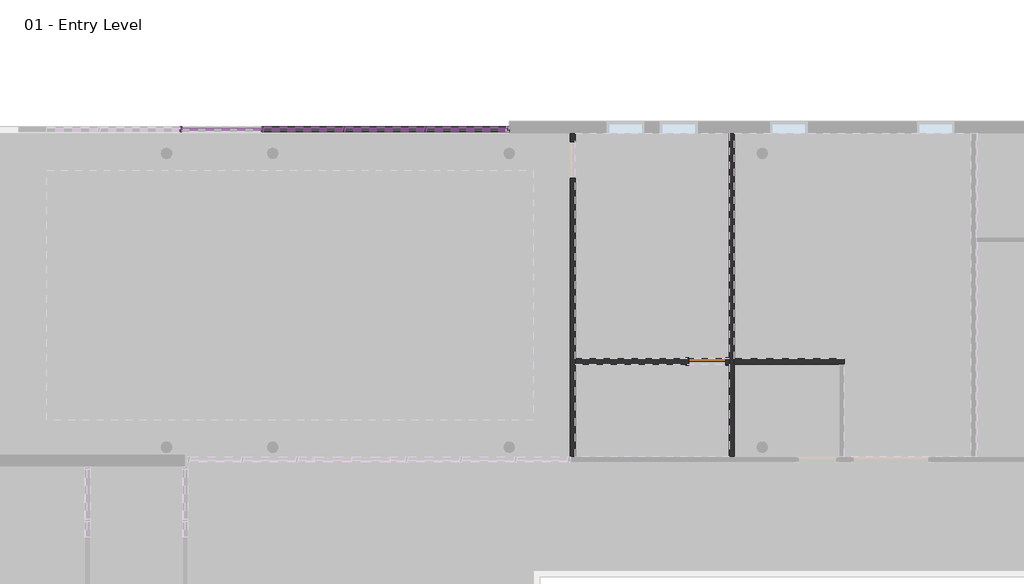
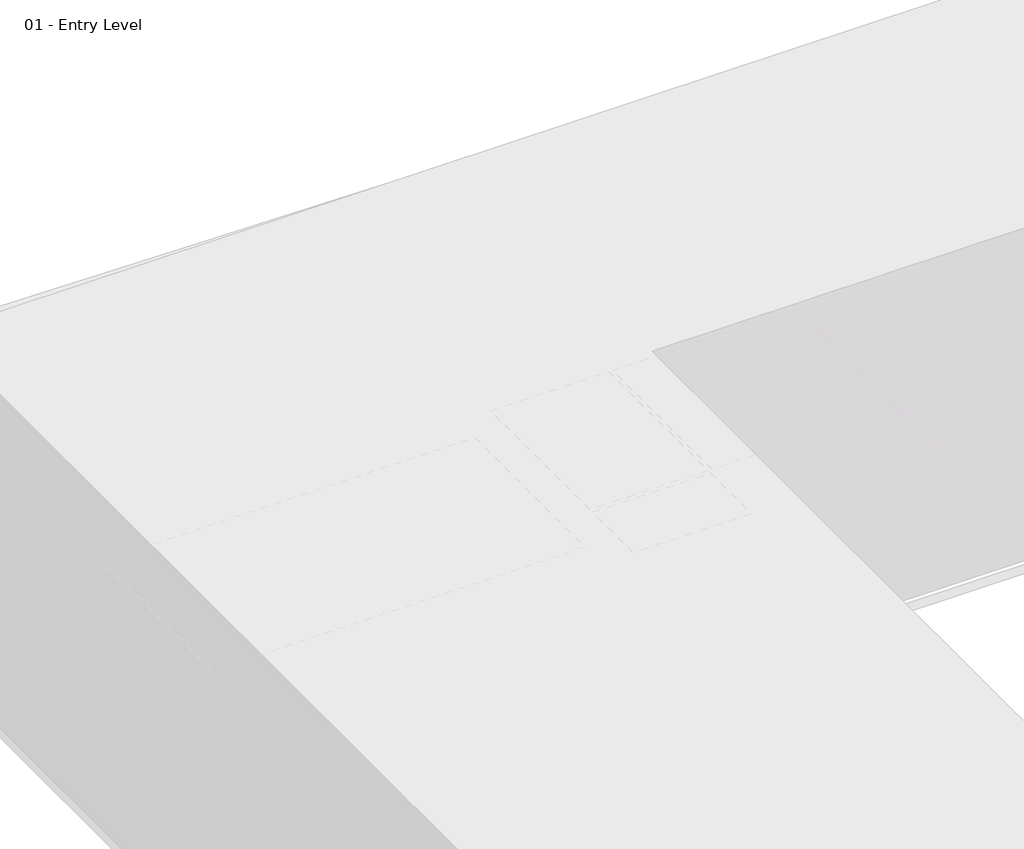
# One storey, part 29 of 34: 82 members, 36 plates, 3 walls, 1 door.
"""IFC4 building model written with IfcOpenShell, lengths in millimetres."""

from ifc_helpers import new_model, si_unit, origin, place, context, project, spatial, faceted_brep, transform, mapped, element, save
from components import door_a1797ceb, member_2b49869a, member_75074519, member_391b434c, member_9e90ae50, system_panel_glazed_1b9d6098, system_panel_glazed_70da479d, system_panel_solid_b376696c, system_panel_solid_77e8b053

model = new_model("IFC4")

# Units and contexts
model_context = context("Model", 3, world=origin())
ifc_project = project(units=[si_unit("LENGTHUNIT", "METRE", prefix="MILLI")], contexts=[model_context])

# Site, building, storey
site = spatial("IfcSite", under=ifc_project)
building = spatial("IfcBuilding", under=site)
storey = spatial("IfcBuildingStorey", under=building, Name="01 - Entry Level", Elevation=0.0)

# Door
placement = place(None, origin())
door_shape = door_a1797ceb(model_context)
element("IfcDoor", 1, ObjectType="Single-Flush : 36\" x 84\"", at=placement, inside=storey, context=model_context, shape_type="MappedRepresentation", body=[
    mapped(door_shape, transform((21413.1207476, 48047.2, 0.0), x_axis=(1.0, 0.0, 0.0), y_axis=(0.0, 1.0, 0.0), z_axis=(0.0, 0.0, 1.0))),
])

# Members
member_shape = member_2b49869a(model_context)
element("IfcMember", 2, ObjectType="Rectangular Mullion : 2.5\" x 5\" rectangular", at=placement, inside=storey, context=model_context, shape_type="MappedRepresentation", body=[
    mapped(member_shape, transform((14402.7207476, 53825.7, 9753.6), x_axis=(-1.0, 0.0, 0.0), y_axis=(0.0, 1.0, 0.0), z_axis=(0.0, 0.0, -1.0))),
])
element("IfcMember", 3, ObjectType="Rectangular Mullion : 2.5\" x 5\" rectangular", at=placement, inside=storey, context=model_context, shape_type="MappedRepresentation", body=[
    mapped(member_shape, transform((12370.7207476, 53825.7, 9753.6), x_axis=(-1.0, 0.0, 0.0), y_axis=(0.0, 1.0, 0.0), z_axis=(0.0, 0.0, -1.0))),
])
element("IfcMember", 4, ObjectType="Rectangular Mullion : 2.5\" x 5\" rectangular", at=placement, inside=storey, context=model_context, shape_type="MappedRepresentation", body=[
    mapped(member_shape, transform((10338.7207476, 53825.7, 9753.6), x_axis=(-1.0, 0.0, 0.0), y_axis=(0.0, 1.0, 0.0), z_axis=(0.0, 0.0, -1.0))),
])
element("IfcMember", 5, ObjectType="Rectangular Mullion : 2.5\" x 5\" rectangular", at=placement, inside=storey, context=model_context, shape_type="MappedRepresentation", body=[
    mapped(member_shape, transform((8306.7207476, 53825.7, 9753.6), x_axis=(-1.0, 0.0, 0.0), y_axis=(0.0, 1.0, 0.0), z_axis=(0.0, 0.0, -1.0))),
])
member_2_shape = member_75074519(model_context)
element("IfcMember", 6, ObjectType="Rectangular Mullion : 2.5\" x 5\" rectangular", at=placement, inside=storey, context=model_context, shape_type="MappedRepresentation", body=[
    mapped(member_2_shape, transform((16485.5207476, 53825.7, 10972.8), x_axis=(1.0, 0.0, 0.0), y_axis=(0.0, 1.0, 0.0), z_axis=(0.0, 0.0, 1.0))),
])
member_3_shape = member_391b434c(model_context)
element("IfcMember", 7, ObjectType="Rectangular Mullion : 2.5\" x 5\" rectangular", at=placement, inside=storey, context=model_context, shape_type="MappedRepresentation", body=[
    mapped(member_3_shape, transform((14434.4707476, 53825.7, 10972.8), x_axis=(0.0, 0.0, 1.0), y_axis=(0.0, 1.0, 0.0), z_axis=(-1.0, 0.0, 0.0))),
])
element("IfcMember", 8, ObjectType="Rectangular Mullion : 2.5\" x 5\" rectangular", at=placement, inside=storey, context=model_context, shape_type="MappedRepresentation", body=[
    mapped(member_3_shape, transform((12402.4707476, 53825.7, 10972.8), x_axis=(0.0, 0.0, 1.0), y_axis=(0.0, 1.0, 0.0), z_axis=(-1.0, 0.0, 0.0))),
])
element("IfcMember", 9, ObjectType="Rectangular Mullion : 2.5\" x 5\" rectangular", at=placement, inside=storey, context=model_context, shape_type="MappedRepresentation", body=[
    mapped(member_3_shape, transform((10370.4707476, 53825.7, 10972.8), x_axis=(0.0, 0.0, 1.0), y_axis=(0.0, 1.0, 0.0), z_axis=(-1.0, 0.0, 0.0))),
])
element("IfcMember", 10, ObjectType="Rectangular Mullion : 2.5\" x 5\" rectangular", at=placement, inside=storey, context=model_context, shape_type="MappedRepresentation", body=[
    mapped(member_3_shape, transform((16402.9707476, 53825.7, 0.0), x_axis=(0.0, 0.0, -1.0), y_axis=(0.0, 1.0, 0.0), z_axis=(1.0, 0.0, 0.0))),
])
element("IfcMember", 11, ObjectType="Rectangular Mullion : 2.5\" x 5\" rectangular", at=placement, inside=storey, context=model_context, shape_type="MappedRepresentation", body=[
    mapped(member_3_shape, transform((14370.9707476, 53825.7, 0.0), x_axis=(0.0, 0.0, -1.0), y_axis=(0.0, 1.0, 0.0), z_axis=(1.0, 0.0, 0.0))),
])
element("IfcMember", 12, ObjectType="Rectangular Mullion : 2.5\" x 5\" rectangular", at=placement, inside=storey, context=model_context, shape_type="MappedRepresentation", body=[
    mapped(member_3_shape, transform((12338.9707476, 53825.7, 0.0), x_axis=(0.0, 0.0, -1.0), y_axis=(0.0, 1.0, 0.0), z_axis=(1.0, 0.0, 0.0))),
])
element("IfcMember", 13, ObjectType="Rectangular Mullion : 2.5\" x 5\" rectangular", at=placement, inside=storey, context=model_context, shape_type="MappedRepresentation", body=[
    mapped(member_3_shape, transform((10306.9707476, 53825.7, 0.0), x_axis=(0.0, 0.0, -1.0), y_axis=(0.0, 1.0, 0.0), z_axis=(1.0, 0.0, 0.0))),
])
member_4_shape = member_9e90ae50(model_context)
element("IfcMember", 14, ObjectType="Rectangular Mullion : 2.5\" x 5\" rectangular", at=placement, inside=storey, context=model_context, shape_type="MappedRepresentation", body=[
    mapped(member_4_shape, transform((14434.4707476, 53825.7, 1219.2), x_axis=(0.0, 0.0, 1.0), y_axis=(0.0, 1.0, 0.0), z_axis=(-1.0, 0.0, 0.0))),
])
element("IfcMember", 15, ObjectType="Rectangular Mullion : 2.5\" x 5\" rectangular", at=placement, inside=storey, context=model_context, shape_type="MappedRepresentation", body=[
    mapped(member_4_shape, transform((12402.4707476, 53825.7, 1219.2), x_axis=(0.0, 0.0, 1.0), y_axis=(0.0, 1.0, 0.0), z_axis=(-1.0, 0.0, 0.0))),
])
element("IfcMember", 16, ObjectType="Rectangular Mullion : 2.5\" x 5\" rectangular", at=placement, inside=storey, context=model_context, shape_type="MappedRepresentation", body=[
    mapped(member_4_shape, transform((10370.4707476, 53825.7, 1219.2), x_axis=(0.0, 0.0, 1.0), y_axis=(0.0, 1.0, 0.0), z_axis=(-1.0, 0.0, 0.0))),
])
element("IfcMember", 17, ObjectType="Rectangular Mullion : 2.5\" x 5\" rectangular", at=placement, inside=storey, context=model_context, shape_type="MappedRepresentation", body=[
    mapped(member_4_shape, transform((14434.4707476, 53825.7, 2438.4), x_axis=(0.0, 0.0, 1.0), y_axis=(0.0, 1.0, 0.0), z_axis=(-1.0, 0.0, 0.0))),
])
element("IfcMember", 18, ObjectType="Rectangular Mullion : 2.5\" x 5\" rectangular", at=placement, inside=storey, context=model_context, shape_type="MappedRepresentation", body=[
    mapped(member_4_shape, transform((12402.4707476, 53825.7, 2438.4), x_axis=(0.0, 0.0, 1.0), y_axis=(0.0, 1.0, 0.0), z_axis=(-1.0, 0.0, 0.0))),
])
element("IfcMember", 19, ObjectType="Rectangular Mullion : 2.5\" x 5\" rectangular", at=placement, inside=storey, context=model_context, shape_type="MappedRepresentation", body=[
    mapped(member_4_shape, transform((10370.4707476, 53825.7, 2438.4), x_axis=(0.0, 0.0, 1.0), y_axis=(0.0, 1.0, 0.0), z_axis=(-1.0, 0.0, 0.0))),
])
element("IfcMember", 20, ObjectType="Rectangular Mullion : 2.5\" x 5\" rectangular", at=placement, inside=storey, context=model_context, shape_type="MappedRepresentation", body=[
    mapped(member_4_shape, transform((14434.4707476, 53825.7, 3657.6), x_axis=(0.0, 0.0, 1.0), y_axis=(0.0, 1.0, 0.0), z_axis=(-1.0, 0.0, 0.0))),
])
element("IfcMember", 21, ObjectType="Rectangular Mullion : 2.5\" x 5\" rectangular", at=placement, inside=storey, context=model_context, shape_type="MappedRepresentation", body=[
    mapped(member_4_shape, transform((12402.4707476, 53825.7, 3657.6), x_axis=(0.0, 0.0, 1.0), y_axis=(0.0, 1.0, 0.0), z_axis=(-1.0, 0.0, 0.0))),
])
element("IfcMember", 22, ObjectType="Rectangular Mullion : 2.5\" x 5\" rectangular", at=placement, inside=storey, context=model_context, shape_type="MappedRepresentation", body=[
    mapped(member_4_shape, transform((10370.4707476, 53825.7, 3657.6), x_axis=(0.0, 0.0, 1.0), y_axis=(0.0, 1.0, 0.0), z_axis=(-1.0, 0.0, 0.0))),
])
element("IfcMember", 23, ObjectType="Rectangular Mullion : 2.5\" x 5\" rectangular", at=placement, inside=storey, context=model_context, shape_type="MappedRepresentation", body=[
    mapped(member_4_shape, transform((14434.4707476, 53825.7, 4876.8), x_axis=(0.0, 0.0, 1.0), y_axis=(0.0, 1.0, 0.0), z_axis=(-1.0, 0.0, 0.0))),
])
element("IfcMember", 24, ObjectType="Rectangular Mullion : 2.5\" x 5\" rectangular", at=placement, inside=storey, context=model_context, shape_type="MappedRepresentation", body=[
    mapped(member_4_shape, transform((12402.4707476, 53825.7, 4876.8), x_axis=(0.0, 0.0, 1.0), y_axis=(0.0, 1.0, 0.0), z_axis=(-1.0, 0.0, 0.0))),
])
element("IfcMember", 25, ObjectType="Rectangular Mullion : 2.5\" x 5\" rectangular", at=placement, inside=storey, context=model_context, shape_type="MappedRepresentation", body=[
    mapped(member_4_shape, transform((10370.4707476, 53825.7, 4876.8), x_axis=(0.0, 0.0, 1.0), y_axis=(0.0, 1.0, 0.0), z_axis=(-1.0, 0.0, 0.0))),
])
element("IfcMember", 26, ObjectType="Rectangular Mullion : 2.5\" x 5\" rectangular", at=placement, inside=storey, context=model_context, shape_type="MappedRepresentation", body=[
    mapped(member_4_shape, transform((14434.4707476, 53825.7, 6096.0), x_axis=(0.0, 0.0, 1.0), y_axis=(0.0, 1.0, 0.0), z_axis=(-1.0, 0.0, 0.0))),
])
element("IfcMember", 27, ObjectType="Rectangular Mullion : 2.5\" x 5\" rectangular", at=placement, inside=storey, context=model_context, shape_type="MappedRepresentation", body=[
    mapped(member_4_shape, transform((12402.4707476, 53825.7, 6096.0), x_axis=(0.0, 0.0, 1.0), y_axis=(0.0, 1.0, 0.0), z_axis=(-1.0, 0.0, 0.0))),
])
element("IfcMember", 28, ObjectType="Rectangular Mullion : 2.5\" x 5\" rectangular", at=placement, inside=storey, context=model_context, shape_type="MappedRepresentation", body=[
    mapped(member_4_shape, transform((10370.4707476, 53825.7, 6096.0), x_axis=(0.0, 0.0, 1.0), y_axis=(0.0, 1.0, 0.0), z_axis=(-1.0, 0.0, 0.0))),
])
element("IfcMember", 29, ObjectType="Rectangular Mullion : 2.5\" x 5\" rectangular", at=placement, inside=storey, context=model_context, shape_type="MappedRepresentation", body=[
    mapped(member_4_shape, transform((14434.4707476, 53825.7, 7315.2), x_axis=(0.0, 0.0, 1.0), y_axis=(0.0, 1.0, 0.0), z_axis=(-1.0, 0.0, 0.0))),
])
element("IfcMember", 30, ObjectType="Rectangular Mullion : 2.5\" x 5\" rectangular", at=placement, inside=storey, context=model_context, shape_type="MappedRepresentation", body=[
    mapped(member_4_shape, transform((12402.4707476, 53825.7, 7315.2), x_axis=(0.0, 0.0, 1.0), y_axis=(0.0, 1.0, 0.0), z_axis=(-1.0, 0.0, 0.0))),
])
element("IfcMember", 31, ObjectType="Rectangular Mullion : 2.5\" x 5\" rectangular", at=placement, inside=storey, context=model_context, shape_type="MappedRepresentation", body=[
    mapped(member_4_shape, transform((10370.4707476, 53825.7, 7315.2), x_axis=(0.0, 0.0, 1.0), y_axis=(0.0, 1.0, 0.0), z_axis=(-1.0, 0.0, 0.0))),
])
element("IfcMember", 32, ObjectType="Rectangular Mullion : 2.5\" x 5\" rectangular", at=placement, inside=storey, context=model_context, shape_type="MappedRepresentation", body=[
    mapped(member_4_shape, transform((14434.4707476, 53825.7, 8534.4), x_axis=(0.0, 0.0, 1.0), y_axis=(0.0, 1.0, 0.0), z_axis=(-1.0, 0.0, 0.0))),
])
element("IfcMember", 33, ObjectType="Rectangular Mullion : 2.5\" x 5\" rectangular", at=placement, inside=storey, context=model_context, shape_type="MappedRepresentation", body=[
    mapped(member_4_shape, transform((12402.4707476, 53825.7, 8534.4), x_axis=(0.0, 0.0, 1.0), y_axis=(0.0, 1.0, 0.0), z_axis=(-1.0, 0.0, 0.0))),
])
element("IfcMember", 34, ObjectType="Rectangular Mullion : 2.5\" x 5\" rectangular", at=placement, inside=storey, context=model_context, shape_type="MappedRepresentation", body=[
    mapped(member_4_shape, transform((10370.4707476, 53825.7, 8534.4), x_axis=(0.0, 0.0, 1.0), y_axis=(0.0, 1.0, 0.0), z_axis=(-1.0, 0.0, 0.0))),
])
element("IfcMember", 35, ObjectType="Rectangular Mullion : 2.5\" x 5\" rectangular", at=placement, inside=storey, context=model_context, shape_type="MappedRepresentation", body=[
    mapped(member_4_shape, transform((14434.4707476, 53825.7, 9753.6), x_axis=(0.0, 0.0, 1.0), y_axis=(0.0, 1.0, 0.0), z_axis=(-1.0, 0.0, 0.0))),
])
element("IfcMember", 36, ObjectType="Rectangular Mullion : 2.5\" x 5\" rectangular", at=placement, inside=storey, context=model_context, shape_type="MappedRepresentation", body=[
    mapped(member_4_shape, transform((12402.4707476, 53825.7, 9753.6), x_axis=(0.0, 0.0, 1.0), y_axis=(0.0, 1.0, 0.0), z_axis=(-1.0, 0.0, 0.0))),
])
element("IfcMember", 37, ObjectType="Rectangular Mullion : 2.5\" x 5\" rectangular", at=placement, inside=storey, context=model_context, shape_type="MappedRepresentation", body=[
    mapped(member_4_shape, transform((10370.4707476, 53825.7, 9753.6), x_axis=(0.0, 0.0, 1.0), y_axis=(0.0, 1.0, 0.0), z_axis=(-1.0, 0.0, 0.0))),
])
element("IfcMember", 38, ObjectType="Rectangular Mullion : 2.5\" x 5\" rectangular", at=placement, inside=storey, context=model_context, shape_type="MappedRepresentation", body=[
    mapped(member_shape, transform((16434.7207476, 53825.7, 0.0), x_axis=(-1.0, 0.0, 0.0), y_axis=(0.0, 1.0, 0.0), z_axis=(0.0, 0.0, -1.0))),
])
element("IfcMember", 39, ObjectType="Rectangular Mullion : 2.5\" x 5\" rectangular", at=placement, inside=storey, context=model_context, shape_type="MappedRepresentation", body=[
    mapped(member_shape, transform((14402.7207476, 53825.7, 0.0), x_axis=(-1.0, 0.0, 0.0), y_axis=(0.0, 1.0, 0.0), z_axis=(0.0, 0.0, -1.0))),
])
element("IfcMember", 40, ObjectType="Rectangular Mullion : 2.5\" x 5\" rectangular", at=placement, inside=storey, context=model_context, shape_type="MappedRepresentation", body=[
    mapped(member_shape, transform((12370.7207476, 53825.7, 0.0), x_axis=(-1.0, 0.0, 0.0), y_axis=(0.0, 1.0, 0.0), z_axis=(0.0, 0.0, -1.0))),
])
element("IfcMember", 41, ObjectType="Rectangular Mullion : 2.5\" x 5\" rectangular", at=placement, inside=storey, context=model_context, shape_type="MappedRepresentation", body=[
    mapped(member_shape, transform((10338.7207476, 53825.7, 0.0), x_axis=(-1.0, 0.0, 0.0), y_axis=(0.0, 1.0, 0.0), z_axis=(0.0, 0.0, -1.0))),
])
element("IfcMember", 42, ObjectType="Rectangular Mullion : 2.5\" x 5\" rectangular", at=placement, inside=storey, context=model_context, shape_type="MappedRepresentation", body=[
    mapped(member_shape, transform((8306.7207476, 53825.7, 0.0), x_axis=(-1.0, 0.0, 0.0), y_axis=(0.0, 1.0, 0.0), z_axis=(0.0, 0.0, -1.0))),
])
element("IfcMember", 43, ObjectType="Rectangular Mullion : 2.5\" x 5\" rectangular", at=placement, inside=storey, context=model_context, shape_type="MappedRepresentation", body=[
    mapped(member_shape, transform((16434.7207476, 53825.7, 1219.2), x_axis=(-1.0, 0.0, 0.0), y_axis=(0.0, 1.0, 0.0), z_axis=(0.0, 0.0, -1.0))),
])
element("IfcMember", 44, ObjectType="Rectangular Mullion : 2.5\" x 5\" rectangular", at=placement, inside=storey, context=model_context, shape_type="MappedRepresentation", body=[
    mapped(member_shape, transform((14402.7207476, 53825.7, 1219.2), x_axis=(-1.0, 0.0, 0.0), y_axis=(0.0, 1.0, 0.0), z_axis=(0.0, 0.0, -1.0))),
])
element("IfcMember", 45, ObjectType="Rectangular Mullion : 2.5\" x 5\" rectangular", at=placement, inside=storey, context=model_context, shape_type="MappedRepresentation", body=[
    mapped(member_shape, transform((12370.7207476, 53825.7, 1219.2), x_axis=(-1.0, 0.0, 0.0), y_axis=(0.0, 1.0, 0.0), z_axis=(0.0, 0.0, -1.0))),
])
element("IfcMember", 46, ObjectType="Rectangular Mullion : 2.5\" x 5\" rectangular", at=placement, inside=storey, context=model_context, shape_type="MappedRepresentation", body=[
    mapped(member_shape, transform((10338.7207476, 53825.7, 1219.2), x_axis=(-1.0, 0.0, 0.0), y_axis=(0.0, 1.0, 0.0), z_axis=(0.0, 0.0, -1.0))),
])
element("IfcMember", 47, ObjectType="Rectangular Mullion : 2.5\" x 5\" rectangular", at=placement, inside=storey, context=model_context, shape_type="MappedRepresentation", body=[
    mapped(member_shape, transform((8306.7207476, 53825.7, 1219.2), x_axis=(-1.0, 0.0, 0.0), y_axis=(0.0, 1.0, 0.0), z_axis=(0.0, 0.0, -1.0))),
])
element("IfcMember", 48, ObjectType="Rectangular Mullion : 2.5\" x 5\" rectangular", at=placement, inside=storey, context=model_context, shape_type="MappedRepresentation", body=[
    mapped(member_shape, transform((16434.7207476, 53825.7, 2438.4), x_axis=(-1.0, 0.0, 0.0), y_axis=(0.0, 1.0, 0.0), z_axis=(0.0, 0.0, -1.0))),
])
element("IfcMember", 49, ObjectType="Rectangular Mullion : 2.5\" x 5\" rectangular", at=placement, inside=storey, context=model_context, shape_type="MappedRepresentation", body=[
    mapped(member_shape, transform((14402.7207476, 53825.7, 2438.4), x_axis=(-1.0, 0.0, 0.0), y_axis=(0.0, 1.0, 0.0), z_axis=(0.0, 0.0, -1.0))),
])
element("IfcMember", 50, ObjectType="Rectangular Mullion : 2.5\" x 5\" rectangular", at=placement, inside=storey, context=model_context, shape_type="MappedRepresentation", body=[
    mapped(member_shape, transform((12370.7207476, 53825.7, 2438.4), x_axis=(-1.0, 0.0, 0.0), y_axis=(0.0, 1.0, 0.0), z_axis=(0.0, 0.0, -1.0))),
])
element("IfcMember", 51, ObjectType="Rectangular Mullion : 2.5\" x 5\" rectangular", at=placement, inside=storey, context=model_context, shape_type="MappedRepresentation", body=[
    mapped(member_shape, transform((10338.7207476, 53825.7, 2438.4), x_axis=(-1.0, 0.0, 0.0), y_axis=(0.0, 1.0, 0.0), z_axis=(0.0, 0.0, -1.0))),
])
element("IfcMember", 52, ObjectType="Rectangular Mullion : 2.5\" x 5\" rectangular", at=placement, inside=storey, context=model_context, shape_type="MappedRepresentation", body=[
    mapped(member_shape, transform((8306.7207476, 53825.7, 2438.4), x_axis=(-1.0, 0.0, 0.0), y_axis=(0.0, 1.0, 0.0), z_axis=(0.0, 0.0, -1.0))),
])
element("IfcMember", 53, ObjectType="Rectangular Mullion : 2.5\" x 5\" rectangular", at=placement, inside=storey, context=model_context, shape_type="MappedRepresentation", body=[
    mapped(member_shape, transform((16434.7207476, 53825.7, 3657.6), x_axis=(-1.0, 0.0, 0.0), y_axis=(0.0, 1.0, 0.0), z_axis=(0.0, 0.0, -1.0))),
])
element("IfcMember", 54, ObjectType="Rectangular Mullion : 2.5\" x 5\" rectangular", at=placement, inside=storey, context=model_context, shape_type="MappedRepresentation", body=[
    mapped(member_shape, transform((14402.7207476, 53825.7, 3657.6), x_axis=(-1.0, 0.0, 0.0), y_axis=(0.0, 1.0, 0.0), z_axis=(0.0, 0.0, -1.0))),
])
element("IfcMember", 55, ObjectType="Rectangular Mullion : 2.5\" x 5\" rectangular", at=placement, inside=storey, context=model_context, shape_type="MappedRepresentation", body=[
    mapped(member_shape, transform((12370.7207476, 53825.7, 3657.6), x_axis=(-1.0, 0.0, 0.0), y_axis=(0.0, 1.0, 0.0), z_axis=(0.0, 0.0, -1.0))),
])
element("IfcMember", 56, ObjectType="Rectangular Mullion : 2.5\" x 5\" rectangular", at=placement, inside=storey, context=model_context, shape_type="MappedRepresentation", body=[
    mapped(member_shape, transform((10338.7207476, 53825.7, 3657.6), x_axis=(-1.0, 0.0, 0.0), y_axis=(0.0, 1.0, 0.0), z_axis=(0.0, 0.0, -1.0))),
])
element("IfcMember", 57, ObjectType="Rectangular Mullion : 2.5\" x 5\" rectangular", at=placement, inside=storey, context=model_context, shape_type="MappedRepresentation", body=[
    mapped(member_shape, transform((8306.7207476, 53825.7, 3657.6), x_axis=(-1.0, 0.0, 0.0), y_axis=(0.0, 1.0, 0.0), z_axis=(0.0, 0.0, -1.0))),
])
element("IfcMember", 58, ObjectType="Rectangular Mullion : 2.5\" x 5\" rectangular", at=placement, inside=storey, context=model_context, shape_type="MappedRepresentation", body=[
    mapped(member_shape, transform((16434.7207476, 53825.7, 4876.8), x_axis=(-1.0, 0.0, 0.0), y_axis=(0.0, 1.0, 0.0), z_axis=(0.0, 0.0, -1.0))),
])
element("IfcMember", 59, ObjectType="Rectangular Mullion : 2.5\" x 5\" rectangular", at=placement, inside=storey, context=model_context, shape_type="MappedRepresentation", body=[
    mapped(member_shape, transform((14402.7207476, 53825.7, 4876.8), x_axis=(-1.0, 0.0, 0.0), y_axis=(0.0, 1.0, 0.0), z_axis=(0.0, 0.0, -1.0))),
])
element("IfcMember", 60, ObjectType="Rectangular Mullion : 2.5\" x 5\" rectangular", at=placement, inside=storey, context=model_context, shape_type="MappedRepresentation", body=[
    mapped(member_shape, transform((12370.7207476, 53825.7, 4876.8), x_axis=(-1.0, 0.0, 0.0), y_axis=(0.0, 1.0, 0.0), z_axis=(0.0, 0.0, -1.0))),
])
element("IfcMember", 61, ObjectType="Rectangular Mullion : 2.5\" x 5\" rectangular", at=placement, inside=storey, context=model_context, shape_type="MappedRepresentation", body=[
    mapped(member_shape, transform((10338.7207476, 53825.7, 4876.8), x_axis=(-1.0, 0.0, 0.0), y_axis=(0.0, 1.0, 0.0), z_axis=(0.0, 0.0, -1.0))),
])
element("IfcMember", 62, ObjectType="Rectangular Mullion : 2.5\" x 5\" rectangular", at=placement, inside=storey, context=model_context, shape_type="MappedRepresentation", body=[
    mapped(member_shape, transform((8306.7207476, 53825.7, 4876.8), x_axis=(-1.0, 0.0, 0.0), y_axis=(0.0, 1.0, 0.0), z_axis=(0.0, 0.0, -1.0))),
])
element("IfcMember", 63, ObjectType="Rectangular Mullion : 2.5\" x 5\" rectangular", at=placement, inside=storey, context=model_context, shape_type="MappedRepresentation", body=[
    mapped(member_shape, transform((16434.7207476, 53825.7, 6096.0), x_axis=(-1.0, 0.0, 0.0), y_axis=(0.0, 1.0, 0.0), z_axis=(0.0, 0.0, -1.0))),
])
element("IfcMember", 64, ObjectType="Rectangular Mullion : 2.5\" x 5\" rectangular", at=placement, inside=storey, context=model_context, shape_type="MappedRepresentation", body=[
    mapped(member_shape, transform((14402.7207476, 53825.7, 6096.0), x_axis=(-1.0, 0.0, 0.0), y_axis=(0.0, 1.0, 0.0), z_axis=(0.0, 0.0, -1.0))),
])
element("IfcMember", 65, ObjectType="Rectangular Mullion : 2.5\" x 5\" rectangular", at=placement, inside=storey, context=model_context, shape_type="MappedRepresentation", body=[
    mapped(member_shape, transform((12370.7207476, 53825.7, 6096.0), x_axis=(-1.0, 0.0, 0.0), y_axis=(0.0, 1.0, 0.0), z_axis=(0.0, 0.0, -1.0))),
])
element("IfcMember", 66, ObjectType="Rectangular Mullion : 2.5\" x 5\" rectangular", at=placement, inside=storey, context=model_context, shape_type="MappedRepresentation", body=[
    mapped(member_shape, transform((10338.7207476, 53825.7, 6096.0), x_axis=(-1.0, 0.0, 0.0), y_axis=(0.0, 1.0, 0.0), z_axis=(0.0, 0.0, -1.0))),
])
element("IfcMember", 67, ObjectType="Rectangular Mullion : 2.5\" x 5\" rectangular", at=placement, inside=storey, context=model_context, shape_type="MappedRepresentation", body=[
    mapped(member_shape, transform((8306.7207476, 53825.7, 6096.0), x_axis=(-1.0, 0.0, 0.0), y_axis=(0.0, 1.0, 0.0), z_axis=(0.0, 0.0, -1.0))),
])
element("IfcMember", 68, ObjectType="Rectangular Mullion : 2.5\" x 5\" rectangular", at=placement, inside=storey, context=model_context, shape_type="MappedRepresentation", body=[
    mapped(member_shape, transform((14402.7207476, 53825.7, 7315.2), x_axis=(-1.0, 0.0, 0.0), y_axis=(0.0, 1.0, 0.0), z_axis=(0.0, 0.0, -1.0))),
])
element("IfcMember", 69, ObjectType="Rectangular Mullion : 2.5\" x 5\" rectangular", at=placement, inside=storey, context=model_context, shape_type="MappedRepresentation", body=[
    mapped(member_shape, transform((12370.7207476, 53825.7, 7315.2), x_axis=(-1.0, 0.0, 0.0), y_axis=(0.0, 1.0, 0.0), z_axis=(0.0, 0.0, -1.0))),
])
element("IfcMember", 70, ObjectType="Rectangular Mullion : 2.5\" x 5\" rectangular", at=placement, inside=storey, context=model_context, shape_type="MappedRepresentation", body=[
    mapped(member_shape, transform((10338.7207476, 53825.7, 7315.2), x_axis=(-1.0, 0.0, 0.0), y_axis=(0.0, 1.0, 0.0), z_axis=(0.0, 0.0, -1.0))),
])
element("IfcMember", 71, ObjectType="Rectangular Mullion : 2.5\" x 5\" rectangular", at=placement, inside=storey, context=model_context, shape_type="MappedRepresentation", body=[
    mapped(member_shape, transform((8306.7207476, 53825.7, 7315.2), x_axis=(-1.0, 0.0, 0.0), y_axis=(0.0, 1.0, 0.0), z_axis=(0.0, 0.0, -1.0))),
])
element("IfcMember", 72, ObjectType="Rectangular Mullion : 2.5\" x 5\" rectangular", at=placement, inside=storey, context=model_context, shape_type="MappedRepresentation", body=[
    mapped(member_shape, transform((14402.7207476, 53825.7, 8534.4), x_axis=(-1.0, 0.0, 0.0), y_axis=(0.0, 1.0, 0.0), z_axis=(0.0, 0.0, -1.0))),
])
element("IfcMember", 73, ObjectType="Rectangular Mullion : 2.5\" x 5\" rectangular", at=placement, inside=storey, context=model_context, shape_type="MappedRepresentation", body=[
    mapped(member_shape, transform((12370.7207476, 53825.7, 8534.4), x_axis=(-1.0, 0.0, 0.0), y_axis=(0.0, 1.0, 0.0), z_axis=(0.0, 0.0, -1.0))),
])
element("IfcMember", 74, ObjectType="Rectangular Mullion : 2.5\" x 5\" rectangular", at=placement, inside=storey, context=model_context, shape_type="MappedRepresentation", body=[
    mapped(member_shape, transform((10338.7207476, 53825.7, 8534.4), x_axis=(-1.0, 0.0, 0.0), y_axis=(0.0, 1.0, 0.0), z_axis=(0.0, 0.0, -1.0))),
])
element("IfcMember", 75, ObjectType="Rectangular Mullion : 2.5\" x 5\" rectangular", at=placement, inside=storey, context=model_context, shape_type="MappedRepresentation", body=[
    mapped(member_shape, transform((8306.7207476, 53825.7, 8534.4), x_axis=(-1.0, 0.0, 0.0), y_axis=(0.0, 1.0, 0.0), z_axis=(0.0, 0.0, -1.0))),
])
element("IfcMember", 76, ObjectType="Rectangular Mullion : 2.5\" x 5\" rectangular", at=placement, inside=storey, context=model_context, shape_type="MappedRepresentation", body=[
    mapped(member_2_shape, transform((16485.5207476, 53825.7, 1219.2), x_axis=(1.0, 0.0, 0.0), y_axis=(0.0, 1.0, 0.0), z_axis=(0.0, 0.0, 1.0))),
])
element("IfcMember", 77, ObjectType="Rectangular Mullion : 2.5\" x 5\" rectangular", at=placement, inside=storey, context=model_context, shape_type="MappedRepresentation", body=[
    mapped(member_2_shape, transform((16485.5207476, 53825.7, 2438.4), x_axis=(1.0, 0.0, 0.0), y_axis=(0.0, 1.0, 0.0), z_axis=(0.0, 0.0, 1.0))),
])
element("IfcMember", 78, ObjectType="Rectangular Mullion : 2.5\" x 5\" rectangular", at=placement, inside=storey, context=model_context, shape_type="MappedRepresentation", body=[
    mapped(member_2_shape, transform((16485.5207476, 53825.7, 3657.6), x_axis=(1.0, 0.0, 0.0), y_axis=(0.0, 1.0, 0.0), z_axis=(0.0, 0.0, 1.0))),
])
element("IfcMember", 79, ObjectType="Rectangular Mullion : 2.5\" x 5\" rectangular", at=placement, inside=storey, context=model_context, shape_type="MappedRepresentation", body=[
    mapped(member_2_shape, transform((16485.5207476, 53825.7, 4876.8), x_axis=(1.0, 0.0, 0.0), y_axis=(0.0, 1.0, 0.0), z_axis=(0.0, 0.0, 1.0))),
])
element("IfcMember", 80, ObjectType="Rectangular Mullion : 2.5\" x 5\" rectangular", at=placement, inside=storey, context=model_context, shape_type="MappedRepresentation", body=[
    mapped(member_2_shape, transform((16485.5207476, 53825.7, 6096.0), x_axis=(1.0, 0.0, 0.0), y_axis=(0.0, 1.0, 0.0), z_axis=(0.0, 0.0, 1.0))),
])
element("IfcMember", 81, ObjectType="Rectangular Mullion : 2.5\" x 5\" rectangular", at=placement, inside=storey, context=model_context, shape_type="MappedRepresentation", body=[
    mapped(member_2_shape, transform((16485.5207476, 53825.7, 7315.2), x_axis=(1.0, 0.0, 0.0), y_axis=(0.0, 1.0, 0.0), z_axis=(0.0, 0.0, 1.0))),
])
element("IfcMember", 82, ObjectType="Rectangular Mullion : 2.5\" x 5\" rectangular", at=placement, inside=storey, context=model_context, shape_type="MappedRepresentation", body=[
    mapped(member_2_shape, transform((16485.5207476, 53825.7, 8534.4), x_axis=(1.0, 0.0, 0.0), y_axis=(0.0, 1.0, 0.0), z_axis=(0.0, 0.0, 1.0))),
])
element("IfcMember", 83, ObjectType="Rectangular Mullion : 2.5\" x 5\" rectangular", at=placement, inside=storey, context=model_context, shape_type="MappedRepresentation", body=[
    mapped(member_2_shape, transform((16485.5207476, 53825.7, 9753.6), x_axis=(1.0, 0.0, 0.0), y_axis=(0.0, 1.0, 0.0), z_axis=(0.0, 0.0, 1.0))),
])

# Plates
system_panel_glazed_shape = system_panel_glazed_1b9d6098(model_context)
element("IfcPlate", 84, ObjectType="System Panel : Glazed", at=placement, inside=storey, context=model_context, shape_type="MappedRepresentation", body=[
    mapped(system_panel_glazed_shape, transform((15418.7207476, 53825.7, 63.5), x_axis=(-1.0, 0.0, 0.0), y_axis=(0.0, -1.0, 0.0), z_axis=(0.0, 0.0, 1.0))),
])
element("IfcPlate", 85, ObjectType="System Panel : Glazed", at=placement, inside=storey, context=model_context, shape_type="MappedRepresentation", body=[
    mapped(system_panel_glazed_shape, transform((13386.7207476, 53825.7, 63.5), x_axis=(-1.0, 0.0, 0.0), y_axis=(0.0, -1.0, 0.0), z_axis=(0.0, 0.0, 1.0))),
])
element("IfcPlate", 86, ObjectType="System Panel : Glazed", at=placement, inside=storey, context=model_context, shape_type="MappedRepresentation", body=[
    mapped(system_panel_glazed_shape, transform((11354.7207476, 53825.7, 63.5), x_axis=(-1.0, 0.0, 0.0), y_axis=(0.0, -1.0, 0.0), z_axis=(0.0, 0.0, 1.0))),
])
element("IfcPlate", 87, ObjectType="System Panel : Glazed", at=placement, inside=storey, context=model_context, shape_type="MappedRepresentation", body=[
    mapped(system_panel_glazed_shape, transform((9322.7207476, 53825.7, 63.5), x_axis=(-1.0, 0.0, 0.0), y_axis=(0.0, -1.0, 0.0), z_axis=(0.0, 0.0, 1.0))),
])
system_panel_glazed_2_shape = system_panel_glazed_70da479d(model_context)
element("IfcPlate", 88, ObjectType="System Panel : Glazed", at=placement, inside=storey, context=model_context, shape_type="MappedRepresentation", body=[
    mapped(system_panel_glazed_2_shape, transform((15418.7207476, 53825.7, 1250.95), x_axis=(-1.0, 0.0, 0.0), y_axis=(0.0, -1.0, 0.0), z_axis=(0.0, 0.0, 1.0))),
])
element("IfcPlate", 89, ObjectType="System Panel : Glazed", at=placement, inside=storey, context=model_context, shape_type="MappedRepresentation", body=[
    mapped(system_panel_glazed_2_shape, transform((13386.7207476, 53825.7, 1250.95), x_axis=(-1.0, 0.0, 0.0), y_axis=(0.0, -1.0, 0.0), z_axis=(0.0, 0.0, 1.0))),
])
element("IfcPlate", 90, ObjectType="System Panel : Glazed", at=placement, inside=storey, context=model_context, shape_type="MappedRepresentation", body=[
    mapped(system_panel_glazed_2_shape, transform((11354.7207476, 53825.7, 1250.95), x_axis=(-1.0, 0.0, 0.0), y_axis=(0.0, -1.0, 0.0), z_axis=(0.0, 0.0, 1.0))),
])
element("IfcPlate", 91, ObjectType="System Panel : Glazed", at=placement, inside=storey, context=model_context, shape_type="MappedRepresentation", body=[
    mapped(system_panel_glazed_2_shape, transform((9322.7207476, 53825.7, 1250.95), x_axis=(-1.0, 0.0, 0.0), y_axis=(0.0, -1.0, 0.0), z_axis=(0.0, 0.0, 1.0))),
])
element("IfcPlate", 92, ObjectType="System Panel : Glazed", at=placement, inside=storey, context=model_context, shape_type="MappedRepresentation", body=[
    mapped(system_panel_glazed_2_shape, transform((15418.7207476, 53825.7, 3689.35), x_axis=(-1.0, 0.0, 0.0), y_axis=(0.0, -1.0, 0.0), z_axis=(0.0, 0.0, 1.0))),
])
element("IfcPlate", 93, ObjectType="System Panel : Glazed", at=placement, inside=storey, context=model_context, shape_type="MappedRepresentation", body=[
    mapped(system_panel_glazed_2_shape, transform((13386.7207476, 53825.7, 3689.35), x_axis=(-1.0, 0.0, 0.0), y_axis=(0.0, -1.0, 0.0), z_axis=(0.0, 0.0, 1.0))),
])
element("IfcPlate", 94, ObjectType="System Panel : Glazed", at=placement, inside=storey, context=model_context, shape_type="MappedRepresentation", body=[
    mapped(system_panel_glazed_2_shape, transform((11354.7207476, 53825.7, 3689.35), x_axis=(-1.0, 0.0, 0.0), y_axis=(0.0, -1.0, 0.0), z_axis=(0.0, 0.0, 1.0))),
])
element("IfcPlate", 95, ObjectType="System Panel : Glazed", at=placement, inside=storey, context=model_context, shape_type="MappedRepresentation", body=[
    mapped(system_panel_glazed_2_shape, transform((9322.7207476, 53825.7, 3689.35), x_axis=(-1.0, 0.0, 0.0), y_axis=(0.0, -1.0, 0.0), z_axis=(0.0, 0.0, 1.0))),
])
element("IfcPlate", 96, ObjectType="System Panel : Glazed", at=placement, inside=storey, context=model_context, shape_type="MappedRepresentation", body=[
    mapped(system_panel_glazed_2_shape, transform((15418.7207476, 53825.7, 4908.55), x_axis=(-1.0, 0.0, 0.0), y_axis=(0.0, -1.0, 0.0), z_axis=(0.0, 0.0, 1.0))),
])
element("IfcPlate", 97, ObjectType="System Panel : Glazed", at=placement, inside=storey, context=model_context, shape_type="MappedRepresentation", body=[
    mapped(system_panel_glazed_2_shape, transform((13386.7207476, 53825.7, 4908.55), x_axis=(-1.0, 0.0, 0.0), y_axis=(0.0, -1.0, 0.0), z_axis=(0.0, 0.0, 1.0))),
])
element("IfcPlate", 98, ObjectType="System Panel : Glazed", at=placement, inside=storey, context=model_context, shape_type="MappedRepresentation", body=[
    mapped(system_panel_glazed_2_shape, transform((11354.7207476, 53825.7, 4908.55), x_axis=(-1.0, 0.0, 0.0), y_axis=(0.0, -1.0, 0.0), z_axis=(0.0, 0.0, 1.0))),
])
element("IfcPlate", 99, ObjectType="System Panel : Glazed", at=placement, inside=storey, context=model_context, shape_type="MappedRepresentation", body=[
    mapped(system_panel_glazed_2_shape, transform((9322.7207476, 53825.7, 4908.55), x_axis=(-1.0, 0.0, 0.0), y_axis=(0.0, -1.0, 0.0), z_axis=(0.0, 0.0, 1.0))),
])
element("IfcPlate", 100, ObjectType="System Panel : Glazed", at=placement, inside=storey, context=model_context, shape_type="MappedRepresentation", body=[
    mapped(system_panel_glazed_2_shape, transform((15418.7207476, 53825.7, 7346.95), x_axis=(-1.0, 0.0, 0.0), y_axis=(0.0, -1.0, 0.0), z_axis=(0.0, 0.0, 1.0))),
])
element("IfcPlate", 101, ObjectType="System Panel : Glazed", at=placement, inside=storey, context=model_context, shape_type="MappedRepresentation", body=[
    mapped(system_panel_glazed_2_shape, transform((13386.7207476, 53825.7, 7346.95), x_axis=(-1.0, 0.0, 0.0), y_axis=(0.0, -1.0, 0.0), z_axis=(0.0, 0.0, 1.0))),
])
element("IfcPlate", 102, ObjectType="System Panel : Glazed", at=placement, inside=storey, context=model_context, shape_type="MappedRepresentation", body=[
    mapped(system_panel_glazed_2_shape, transform((11354.7207476, 53825.7, 7346.95), x_axis=(-1.0, 0.0, 0.0), y_axis=(0.0, -1.0, 0.0), z_axis=(0.0, 0.0, 1.0))),
])
element("IfcPlate", 103, ObjectType="System Panel : Glazed", at=placement, inside=storey, context=model_context, shape_type="MappedRepresentation", body=[
    mapped(system_panel_glazed_2_shape, transform((9322.7207476, 53825.7, 7346.95), x_axis=(-1.0, 0.0, 0.0), y_axis=(0.0, -1.0, 0.0), z_axis=(0.0, 0.0, 1.0))),
])
element("IfcPlate", 104, ObjectType="System Panel : Glazed", at=placement, inside=storey, context=model_context, shape_type="MappedRepresentation", body=[
    mapped(system_panel_glazed_2_shape, transform((15418.7207476, 53825.7, 8566.15), x_axis=(-1.0, 0.0, 0.0), y_axis=(0.0, -1.0, 0.0), z_axis=(0.0, 0.0, 1.0))),
])
element("IfcPlate", 105, ObjectType="System Panel : Glazed", at=placement, inside=storey, context=model_context, shape_type="MappedRepresentation", body=[
    mapped(system_panel_glazed_2_shape, transform((13386.7207476, 53825.7, 8566.15), x_axis=(-1.0, 0.0, 0.0), y_axis=(0.0, -1.0, 0.0), z_axis=(0.0, 0.0, 1.0))),
])
element("IfcPlate", 106, ObjectType="System Panel : Glazed", at=placement, inside=storey, context=model_context, shape_type="MappedRepresentation", body=[
    mapped(system_panel_glazed_2_shape, transform((11354.7207476, 53825.7, 8566.15), x_axis=(-1.0, 0.0, 0.0), y_axis=(0.0, -1.0, 0.0), z_axis=(0.0, 0.0, 1.0))),
])
element("IfcPlate", 107, ObjectType="System Panel : Glazed", at=placement, inside=storey, context=model_context, shape_type="MappedRepresentation", body=[
    mapped(system_panel_glazed_2_shape, transform((9322.7207476, 53825.7, 8566.15), x_axis=(-1.0, 0.0, 0.0), y_axis=(0.0, -1.0, 0.0), z_axis=(0.0, 0.0, 1.0))),
])
system_panel_solid_shape = system_panel_solid_b376696c(model_context)
element("IfcPlate", 108, ObjectType="System Panel : Solid", at=placement, inside=storey, context=model_context, shape_type="MappedRepresentation", body=[
    mapped(system_panel_solid_shape, transform((15418.7207476, 53825.7, 9785.35), x_axis=(-1.0, 0.0, 0.0), y_axis=(0.0, -1.0, 0.0), z_axis=(0.0, 0.0, 1.0))),
])
element("IfcPlate", 109, ObjectType="System Panel : Solid", at=placement, inside=storey, context=model_context, shape_type="MappedRepresentation", body=[
    mapped(system_panel_solid_shape, transform((13386.7207476, 53825.7, 9785.35), x_axis=(-1.0, 0.0, 0.0), y_axis=(0.0, -1.0, 0.0), z_axis=(0.0, 0.0, 1.0))),
])
element("IfcPlate", 110, ObjectType="System Panel : Solid", at=placement, inside=storey, context=model_context, shape_type="MappedRepresentation", body=[
    mapped(system_panel_solid_shape, transform((11354.7207476, 53825.7, 9785.35), x_axis=(-1.0, 0.0, 0.0), y_axis=(0.0, -1.0, 0.0), z_axis=(0.0, 0.0, 1.0))),
])
element("IfcPlate", 111, ObjectType="System Panel : Solid", at=placement, inside=storey, context=model_context, shape_type="MappedRepresentation", body=[
    mapped(system_panel_solid_shape, transform((9322.7207476, 53825.7, 9785.35), x_axis=(-1.0, 0.0, 0.0), y_axis=(0.0, -1.0, 0.0), z_axis=(0.0, 0.0, 1.0))),
])
system_panel_solid_2_shape = system_panel_solid_77e8b053(model_context)
element("IfcPlate", 112, ObjectType="System Panel : Solid", at=placement, inside=storey, context=model_context, shape_type="MappedRepresentation", body=[
    mapped(system_panel_solid_2_shape, transform((15418.7207476, 53825.7, 2470.15), x_axis=(-1.0, 0.0, 0.0), y_axis=(0.0, -1.0, 0.0), z_axis=(0.0, 0.0, 1.0))),
])
element("IfcPlate", 113, ObjectType="System Panel : Solid", at=placement, inside=storey, context=model_context, shape_type="MappedRepresentation", body=[
    mapped(system_panel_solid_2_shape, transform((13386.7207476, 53825.7, 2470.15), x_axis=(-1.0, 0.0, 0.0), y_axis=(0.0, -1.0, 0.0), z_axis=(0.0, 0.0, 1.0))),
])
element("IfcPlate", 114, ObjectType="System Panel : Solid", at=placement, inside=storey, context=model_context, shape_type="MappedRepresentation", body=[
    mapped(system_panel_solid_2_shape, transform((11354.7207476, 53825.7, 2470.15), x_axis=(-1.0, 0.0, 0.0), y_axis=(0.0, -1.0, 0.0), z_axis=(0.0, 0.0, 1.0))),
])
element("IfcPlate", 115, ObjectType="System Panel : Solid", at=placement, inside=storey, context=model_context, shape_type="MappedRepresentation", body=[
    mapped(system_panel_solid_2_shape, transform((9322.7207476, 53825.7, 2470.15), x_axis=(-1.0, 0.0, 0.0), y_axis=(0.0, -1.0, 0.0), z_axis=(0.0, 0.0, 1.0))),
])
element("IfcPlate", 116, ObjectType="System Panel : Solid", at=placement, inside=storey, context=model_context, shape_type="MappedRepresentation", body=[
    mapped(system_panel_solid_2_shape, transform((15418.7207476, 53825.7, 6127.75), x_axis=(-1.0, 0.0, 0.0), y_axis=(0.0, -1.0, 0.0), z_axis=(0.0, 0.0, 1.0))),
])
element("IfcPlate", 117, ObjectType="System Panel : Solid", at=placement, inside=storey, context=model_context, shape_type="MappedRepresentation", body=[
    mapped(system_panel_solid_2_shape, transform((13386.7207476, 53825.7, 6127.75), x_axis=(-1.0, 0.0, 0.0), y_axis=(0.0, -1.0, 0.0), z_axis=(0.0, 0.0, 1.0))),
])
element("IfcPlate", 118, ObjectType="System Panel : Solid", at=placement, inside=storey, context=model_context, shape_type="MappedRepresentation", body=[
    mapped(system_panel_solid_2_shape, transform((11354.7207476, 53825.7, 6127.75), x_axis=(-1.0, 0.0, 0.0), y_axis=(0.0, -1.0, 0.0), z_axis=(0.0, 0.0, 1.0))),
])
element("IfcPlate", 119, ObjectType="System Panel : Solid", at=placement, inside=storey, context=model_context, shape_type="MappedRepresentation", body=[
    mapped(system_panel_solid_2_shape, transform((9322.7207476, 53825.7, 6127.75), x_axis=(-1.0, 0.0, 0.0), y_axis=(0.0, -1.0, 0.0), z_axis=(0.0, 0.0, 1.0))),
])

# Walls
element("IfcWall", 120, ObjectType="Generic - 5\"", at=placement, inside=storey, context=model_context, shape_type="Brep", body=[
    faceted_brep([(17996.8207476, 53724.1, 0.0), (17996.8207476, 53520.9, 0.0), (17996.8207476, 53520.9, 2133.6), (17996.8207476, 52606.5, 2133.6), (17996.8207476, 52606.5, 0.0), (17996.8207476, 45672.3, 0.0), (17996.8207476, 45672.3, 3403.6), (17996.8207476, 53724.1, 3403.6), (18123.8207476, 53520.9, 2133.6), (18123.8207476, 53520.9, 0.0), (18123.8207476, 53724.1, 0.0), (18123.8207476, 53724.1, 3403.6), (18123.8207476, 48110.7, 3403.6), (18123.8207476, 47983.7, 3403.6), (18123.8207476, 45672.3, 3403.6), (18123.8207476, 45672.3, 0.0), (18123.8207476, 47983.7, 0.0), (18123.8207476, 48110.7, 0.0), (18123.8207476, 52606.5, 0.0), (18123.8207476, 52606.5, 2133.6)], [[[0, 1, 2, 3, 4, 5, 6, 7]], [[8, 9, 10, 11, 12, 13, 14, 15, 16, 17, 18, 19]], [[10, 9, 1, 0]], [[18, 17, 16, 15, 5, 4]], [[0, 7, 11, 10]], [[6, 5, 15, 14]], [[7, 6, 14, 13, 12, 11]], [[2, 1, 9, 8]], [[3, 2, 8, 19]], [[4, 3, 19, 18]]]),
])
element("IfcWall", 121, ObjectType="Generic - 5\"", at=placement, inside=storey, context=model_context, shape_type="Brep", body=[
    faceted_brep([(21959.2207476, 53724.1, 0.0), (21959.2207476, 48110.7, 0.0), (21959.2207476, 47983.7, 0.0), (21959.2207476, 45672.3, 0.0), (21959.2207476, 45672.3, 3403.6), (21959.2207476, 47983.7, 3403.6), (21959.2207476, 48110.7, 3403.6), (21959.2207476, 53724.1, 3403.6), (22086.2207476, 53724.1, 0.0), (22086.2207476, 53724.1, 3403.6), (22086.2207476, 48110.7, 3403.6), (22086.2207476, 47983.7, 3403.6), (22086.2207476, 45672.3, 3403.6), (22086.2207476, 45672.3, 0.0), (22086.2207476, 47983.7, 0.0), (22086.2207476, 48110.7, 0.0)], [[[0, 1, 2, 3, 4, 5, 6, 7]], [[8, 9, 10, 11, 12, 13, 14, 15]], [[3, 2, 1, 0, 8, 15, 14, 13]], [[0, 7, 9, 8]], [[4, 3, 13, 12]], [[7, 6, 5, 4, 12, 11, 10, 9]]]),
])
element("IfcWall", 122, ObjectType="Generic - 5\"", at=placement, inside=storey, context=model_context, shape_type="Brep", body=[
    faceted_brep([(18123.8207476, 47983.7, 3403.6), (18123.8207476, 47983.7, 0.0), (20955.9207476, 47983.7, 0.0), (20955.9207476, 47983.7, 2133.6), (21870.3207476, 47983.7, 2133.6), (21870.3207476, 47983.7, 0.0), (21959.2207476, 47983.7, 0.0), (21959.2207476, 47983.7, 3403.6), (18123.8207476, 48110.7, 0.0), (18123.8207476, 48110.7, 3403.6), (21959.2207476, 48110.7, 3403.6), (21959.2207476, 48110.7, 0.0), (21870.3207476, 48110.7, 0.0), (21870.3207476, 48110.7, 2133.6), (20955.9207476, 48110.7, 2133.6), (20955.9207476, 48110.7, 0.0)], [[[0, 1, 2, 3, 4, 5, 6, 7]], [[8, 9, 10, 11, 12, 13, 14, 15]], [[1, 8, 15, 2]], [[5, 12, 11, 6]], [[1, 0, 9, 8]], [[9, 0, 7, 10]], [[13, 12, 5, 4]], [[14, 13, 4, 3]], [[15, 14, 3, 2]], [[7, 6, 11, 10]]]),
    faceted_brep([(24829.4207476, 47983.7, 0.0), (24829.4207476, 47983.7, 3403.6), (24702.4207476, 47983.7, 3403.6), (22086.2207476, 47983.7, 3403.6), (22086.2207476, 47983.7, 0.0), (24702.4207476, 47983.7, 0.0), (24829.4207476, 48110.7, 3403.6), (24829.4207476, 48110.7, 0.0), (22086.2207476, 48110.7, 0.0), (22086.2207476, 48110.7, 3403.6)], [[[0, 1, 2, 3, 4, 5]], [[6, 7, 8, 9]], [[7, 0, 5, 4, 8]], [[1, 0, 7, 6]], [[1, 6, 9, 3, 2]], [[4, 3, 9, 8]]]),
])

save(model, "model.ifc")
